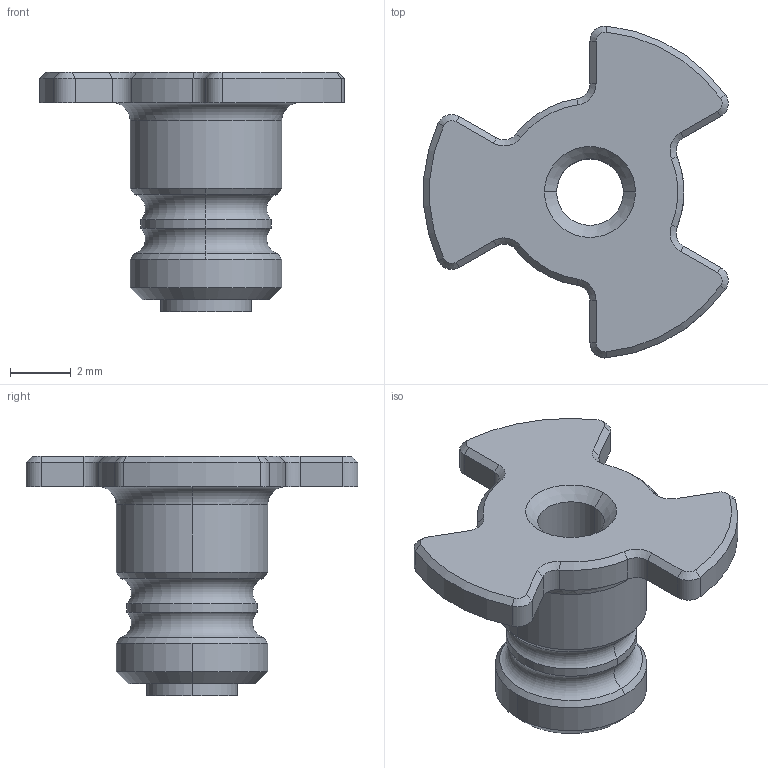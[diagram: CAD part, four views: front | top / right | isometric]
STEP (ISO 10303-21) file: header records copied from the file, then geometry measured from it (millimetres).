
FILE_DESCRIPTION((''),'2;1');
FILE_NAME('30001','2025-04-09T12:19:00',('Administrator'),(''),'CREO PARAMETRIC BY PTC INC, 2024063','CREO PARAMETRIC BY PTC INC, 2024063','');
FILE_SCHEMA(('CONFIG_CONTROL_DESIGN'));
Length unit declared in the file: millimetre
Products named in the file (1): 30001
Bounding box: 10.04 x 10.95 x 7.9 mm (x, y, z)
Volume: 149.5 mm3; surface area: 304.7 mm2
Topology: 1 solids, 1 shells, 78 faces, 183 edges, 108 vertices
Faces by surface type: cylinder 28, cone 26, plane 18, torus 6
Entity records: 2272 total; most frequent: DIRECTION 438, CARTESIAN_POINT 369, ORIENTED_EDGE 366, EDGE_CURVE 183, AXIS2_PLACEMENT_3D 177, VERTEX_POINT 108, CIRCLE 99, VECTOR 84
